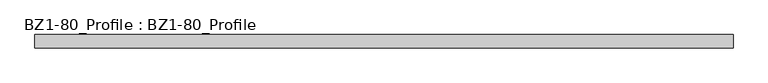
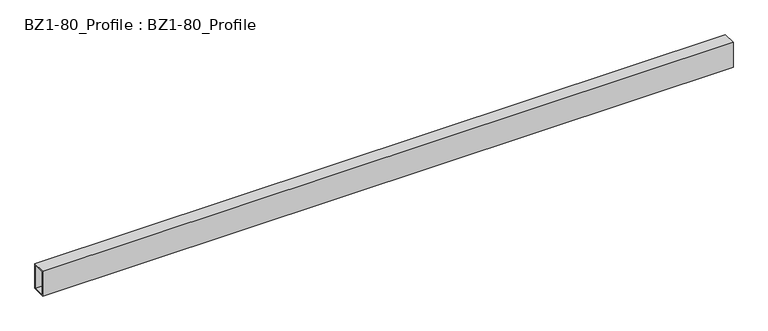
"""IFC4 building model written with IfcOpenShell, lengths in millimetres: beam geometry, BZ1-80_Profile : BZ1-80_Profile."""

from ifc_helpers import new_model, si_unit, frame, origin, place, context, project, spatial, polyline, outline, extrude, source, transform, mapped, element, save


def bz1_80_profile_bz1_80_profile_a418101f(model_context):
    return source(origin(), model_context, "Body", "SweptSolid", [
        extrude(outline(polyline([(-20.0, 40.0), (20.0, 40.0), (20.0, -40.0), (-20.0, -40.0), (-20.0, 40.0)]), holes=[polyline([(-16.0, 36.0), (-16.0, -36.0), (16.0, -36.0), (16.0, 36.0), (-16.0, 36.0)])]), frame((-1049.5, 0.0, 0.0), z_axis=(1.0, 0.0, 0.0), x_axis=(0.0, 1.0, 0.0)), (0.0, 0.0, 1.0), 2099.0),
    ])


if __name__ == "__main__":
    model = new_model("IFC4")
    model_context = context("Model", 3, world=origin())
    ifc_project = project(units=[si_unit("LENGTHUNIT", "METRE", prefix="MILLI")], contexts=[model_context])
    site = spatial("IfcSite", under=ifc_project)
    building = spatial("IfcBuilding", under=site)
    placement = place(None, origin())
    bz1_80_profile_bz1_80_profile_shape = bz1_80_profile_bz1_80_profile_a418101f(model_context)
    element("IfcBeam", 1, ObjectType="BZ1-80_Profile : BZ1-80_Profile", at=placement, inside=building, context=model_context, shape_type="MappedRepresentation", body=[
        mapped(bz1_80_profile_bz1_80_profile_shape, transform((0.0, 0.0, 0.0), x_axis=(1.0, 0.0, 0.0), y_axis=(0.0, 1.0, 0.0), z_axis=(0.0, 0.0, 1.0))),
    ])
    save(model, "model.ifc")
